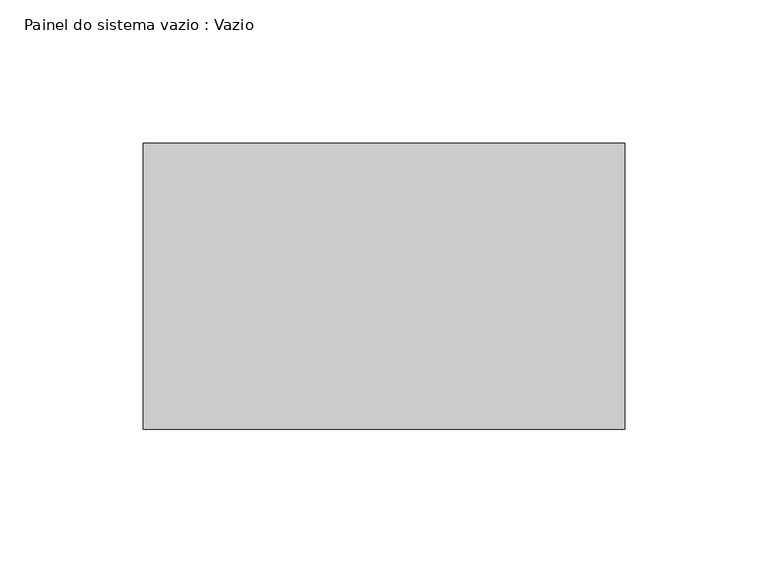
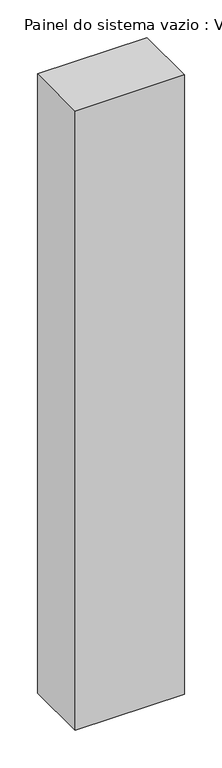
"""IFC4 building model written with IfcOpenShell, lengths in millimetres: plate geometry, Painel do sistema vazio : Vazio."""

from ifc_helpers import new_model, si_unit, origin, origin_with_axes, place, context, project, spatial, polyline, outline, extrude, source, transform, mapped, element, save


def painel_do_sistema_vazio_vazio_9710a491(model_context):
    return source(origin(), model_context, "Body", "SweptSolid", [
        extrude(outline(polyline([(84.1952874, -50.0), (-84.1952874, -50.0), (-84.1952874, 50.0), (84.1952874, 50.0), (84.1952874, -50.0)])), origin_with_axes(), (0.0, 0.0, 1.0), 1005.0),
    ])


if __name__ == "__main__":
    model = new_model("IFC4")
    model_context = context("Model", 3, world=origin())
    ifc_project = project(units=[si_unit("LENGTHUNIT", "METRE", prefix="MILLI")], contexts=[model_context])
    site = spatial("IfcSite", under=ifc_project)
    building = spatial("IfcBuilding", under=site)
    placement = place(None, origin())
    painel_do_sistema_vazio_vazio_shape = painel_do_sistema_vazio_vazio_9710a491(model_context)
    element("IfcPlate", 1, ObjectType="Painel do sistema vazio : Vazio", at=placement, inside=building, context=model_context, shape_type="MappedRepresentation", body=[
        mapped(painel_do_sistema_vazio_vazio_shape, transform((0.0, 0.0, 0.0), x_axis=(1.0, 0.0, 0.0), y_axis=(0.0, 1.0, 0.0), z_axis=(0.0, 0.0, 1.0))),
    ])
    save(model, "model.ifc")
